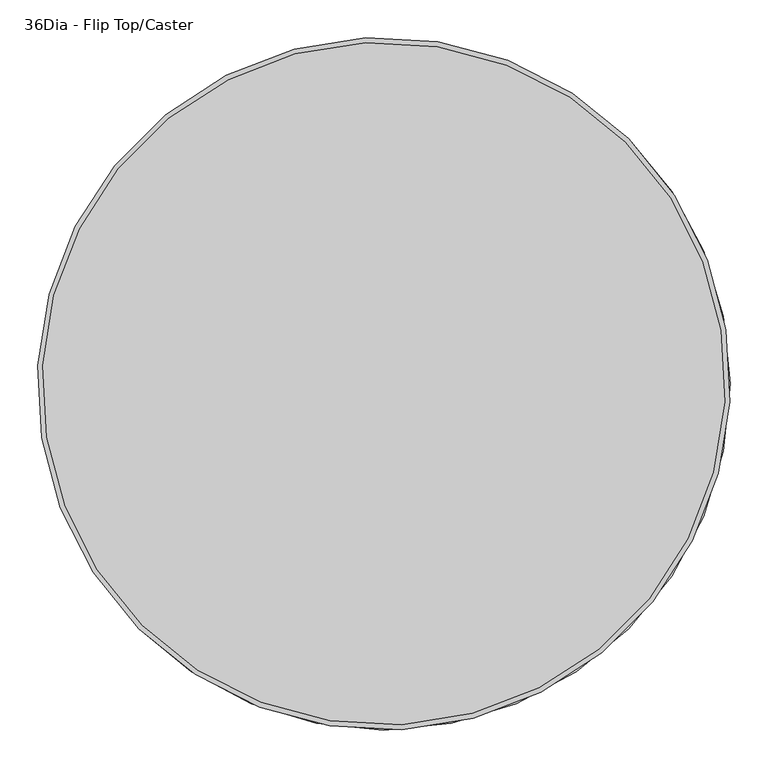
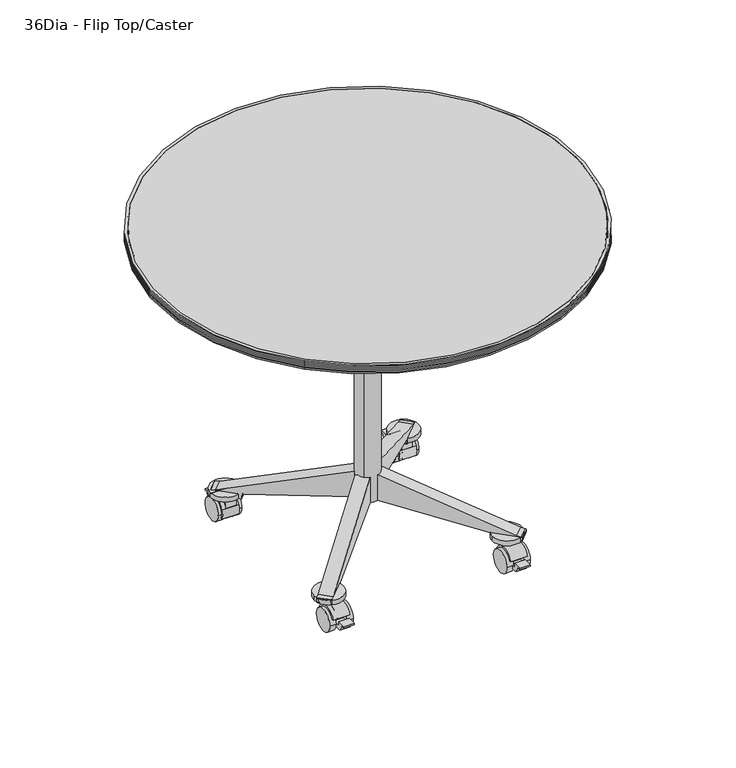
"""IFC4 building model written with IfcOpenShell, lengths in millimetres: furniture geometry, Coalesse_AM_Table_Conference_Ballet_Table_Round : 36Dia - Flip Top/Caster."""

from ifc_helpers import new_model, si_unit, point, frame, frame_2d, origin, origin_2d, place, context, project, spatial, polyline, circle_curve, trimmed, segment, composite_curve, outline, extrude, source, transform, mapped, element, save
from ifc_brep_helpers import plane_surface, cylinder_surface, revolved_surface, advanced_brep


def furniture_36dia_flip_top_caster_c69cecfe(model_context):
    return source(origin(), model_context, "Body", "SolidModel", [
        extrude(outline(composite_curve([segment(trimmed(circle_curve(frame_2d((1.04e-05, -1.04e-05)), 25.3999999), [point((-17.9605018, -17.9605225))], [point((17.9605225, 17.9605018))], False, "CARTESIAN"), True, "CONTINUOUS"), segment(trimmed(circle_curve(frame_2d((1.04e-05, -1.04e-05)), 25.3999999), [point((17.9605225, 17.9605018))], [point((-17.9605018, -17.9605225))], False, "CARTESIAN"), True, "CONTINUOUS")], self_intersect=False)), frame((0.0, 0.0, 607.6784119), z_axis=(0.0, 0.0, 1.0), x_axis=(1.0, 0.0, 0.0)), (0.0, 0.0, 1.0), 50.3081696),
        extrude(outline(composite_curve([segment(trimmed(circle_curve(frame_2d((209.2741105, 25.3444377)), 28.8343721), [point((182.4395783, 14.7931869))], [point((182.4395783, 35.8956886))], False, "CARTESIAN"), True, "CONTINUOUS"), segment(trimmed(circle_curve(frame_2d((207.8788336, 25.8930561)), 27.3351124), [point((182.4395783, 35.8956886))], [point((197.8152878, 51.3082762))], False, "CARTESIAN"), True, "CONTINUOUS"), segment(trimmed(circle_curve(frame_2d((209.4353674, 26.7032164)), 27.2109394), [point((197.8152878, 51.3082762))], [point((234.6796249, 36.8601197))], False, "CARTESIAN"), True, "CONTINUOUS"), segment(polyline([(234.6796249, 36.8601197), (231.2540436, 35.7749086)]), True, "CONTINUOUS"), segment(trimmed(circle_curve(frame_2d((208.7663144, 24.9907393)), 24.9398531), [point((231.2540436, 35.7749086))], [point((185.3508649, 16.4051117))], True, "CARTESIAN"), True, "CONTINUOUS"), segment(polyline([(185.3508649, 16.4051117), (182.4395783, 14.7931869)]), True, "CONTINUOUS")], self_intersect=False)), frame((174.0984431, 0.0, 0.0), z_axis=(1.0, 0.0, 0.0), x_axis=(0.0, 1.0, 0.0)), (0.0, 0.0, 1.0), 36.0286787),
        extrude(outline(composite_curve([segment(trimmed(circle_curve(frame_2d((208.7663144, 24.9907393)), 24.9398531), [point((233.7061675, 24.9907393))], [point((183.8264612, 24.9907393))], False, "CARTESIAN"), True, "CONTINUOUS"), segment(trimmed(circle_curve(frame_2d((208.7663144, 24.9907393)), 24.9398531), [point((183.8264612, 24.9907393))], [point((233.7061675, 24.9907393))], False, "CARTESIAN"), True, "CONTINUOUS")], self_intersect=False)), frame((166.2968952, 0.0, 0.0), z_axis=(1.0, 0.0, 0.0), x_axis=(0.0, 1.0, 0.0)), (0.0, 0.0, 1.0), 14.6120158),
        extrude(outline(composite_curve([segment(polyline([(197.8152878, 63.5225277), (197.8152878, 51.3082762)]), True, "CONTINUOUS"), segment(trimmed(circle_curve(frame_2d((209.4353674, 26.7032164)), 27.2109394), [point((197.8152878, 51.3082762))], [point((234.6796249, 36.8601197))], False, "CARTESIAN"), True, "CONTINUOUS"), segment(polyline([(234.6796249, 36.8601197), (219.8001714, 32.1463658), (222.0637731, 25.0010719), (241.3530844, 25.0010719), (241.3530844, 35.1210973), (260.4030844, 35.1210973), (260.4030844, 31.7691038), (253.6776476, 31.7691038), (244.706152, 17.4117096), (218.9375545, 17.4117096)]), True, "CONTINUOUS"), segment(trimmed(circle_curve(frame_2d((208.672695, 25.0010719)), 12.7658043), [point((218.9375545, 17.4117096))], [point((198.9802659, 16.6930892))], False, "CARTESIAN"), True, "CONTINUOUS"), segment(polyline([(198.9802659, 16.6930892), (195.904393, 22.2484025), (182.4395783, 14.7931869)]), True, "CONTINUOUS"), segment(trimmed(circle_curve(frame_2d((209.2741105, 25.3444377)), 28.8343721), [point((182.4395783, 14.7931869))], [point((182.4395783, 35.8956886))], False, "CARTESIAN"), True, "CONTINUOUS"), segment(polyline([(182.4395783, 35.8956886), (182.4395783, 63.5225277), (197.8152878, 63.5225277)]), True, "CONTINUOUS")], self_intersect=False)), frame((179.2633359, 0.0, 0.0), z_axis=(1.0, 0.0, 0.0), x_axis=(0.0, 1.0, 0.0)), (0.0, 0.0, 1.0), 22.3970625),
        extrude(outline(composite_curve([segment(trimmed(circle_curve(frame_2d((208.7663144, 24.9907393)), 24.9398531), [point((233.7061675, 24.9907393))], [point((183.8264612, 24.9907393))], False, "CARTESIAN"), True, "CONTINUOUS"), segment(trimmed(circle_curve(frame_2d((208.7663144, 24.9907393)), 24.9398531), [point((183.8264612, 24.9907393))], [point((233.7061675, 24.9907393))], False, "CARTESIAN"), True, "CONTINUOUS")], self_intersect=False)), frame((203.3322938, 0.0, 0.0), z_axis=(1.0, 0.0, 0.0), x_axis=(0.0, 1.0, 0.0)), (0.0, 0.0, 1.0), 13.7103424),
        extrude(outline(composite_curve([segment(trimmed(circle_curve(frame_2d((209.2741105, 25.3444377)), 28.8343721), [point((182.4395783, 14.7931869))], [point((182.4395783, 35.8956886))], False, "CARTESIAN"), True, "CONTINUOUS"), segment(trimmed(circle_curve(frame_2d((207.8788336, 25.8930561)), 27.3351124), [point((182.4395783, 35.8956886))], [point((197.8152878, 51.3082762))], False, "CARTESIAN"), True, "CONTINUOUS"), segment(trimmed(circle_curve(frame_2d((209.4353674, 26.7032164)), 27.2109394), [point((197.8152878, 51.3082762))], [point((234.6796249, 36.8601197))], False, "CARTESIAN"), True, "CONTINUOUS"), segment(polyline([(234.6796249, 36.8601197), (231.2540436, 35.7749086)]), True, "CONTINUOUS"), segment(trimmed(circle_curve(frame_2d((208.7663144, 24.9907393)), 24.9398531), [point((231.2540436, 35.7749086))], [point((185.3508649, 16.4051117))], True, "CARTESIAN"), True, "CONTINUOUS"), segment(polyline([(185.3508649, 16.4051117), (182.4395783, 14.7931869)]), True, "CONTINUOUS")], self_intersect=False)), frame((-210.1271218, 0.0, 0.0), z_axis=(1.0, 0.0, 0.0), x_axis=(0.0, 1.0, 0.0)), (0.0, 0.0, 1.0), 36.0286787),
        extrude(outline(composite_curve([segment(trimmed(circle_curve(frame_2d((208.7663144, 24.9907393)), 24.9398531), [point((233.7061675, 24.9907393))], [point((183.8264612, 24.9907393))], False, "CARTESIAN"), True, "CONTINUOUS"), segment(trimmed(circle_curve(frame_2d((208.7663144, 24.9907393)), 24.9398531), [point((183.8264612, 24.9907393))], [point((233.7061675, 24.9907393))], False, "CARTESIAN"), True, "CONTINUOUS")], self_intersect=False)), frame((-180.908911, 0.0, 0.0), z_axis=(1.0, 0.0, 0.0), x_axis=(0.0, 1.0, 0.0)), (0.0, 0.0, 1.0), 14.6120158),
        extrude(outline(composite_curve([segment(polyline([(197.8152878, 63.5225277), (197.8152878, 51.3082762)]), True, "CONTINUOUS"), segment(trimmed(circle_curve(frame_2d((209.4353674, 26.7032164)), 27.2109394), [point((197.8152878, 51.3082762))], [point((234.6796249, 36.8601197))], False, "CARTESIAN"), True, "CONTINUOUS"), segment(polyline([(234.6796249, 36.8601197), (219.8001714, 32.1463658), (222.0637731, 25.0010719), (241.3530844, 25.0010719), (241.3530844, 35.1210973), (260.4030844, 35.1210973), (260.4030844, 31.7691038), (253.6776476, 31.7691038), (244.706152, 17.4117096), (218.9375545, 17.4117096)]), True, "CONTINUOUS"), segment(trimmed(circle_curve(frame_2d((208.672695, 25.0010719)), 12.7658043), [point((218.9375545, 17.4117096))], [point((198.9802659, 16.6930892))], False, "CARTESIAN"), True, "CONTINUOUS"), segment(polyline([(198.9802659, 16.6930892), (195.904393, 22.2484025), (182.4395783, 14.7931869)]), True, "CONTINUOUS"), segment(trimmed(circle_curve(frame_2d((209.2741105, 25.3444377)), 28.8343721), [point((182.4395783, 14.7931869))], [point((182.4395783, 35.8956886))], False, "CARTESIAN"), True, "CONTINUOUS"), segment(polyline([(182.4395783, 35.8956886), (182.4395783, 63.5225277), (197.8152878, 63.5225277)]), True, "CONTINUOUS")], self_intersect=False)), frame((-201.6603984, 0.0, 0.0), z_axis=(1.0, 0.0, 0.0), x_axis=(0.0, 1.0, 0.0)), (0.0, 0.0, 1.0), 22.3970625),
        extrude(outline(composite_curve([segment(trimmed(circle_curve(frame_2d((208.7663144, 24.9907393)), 24.9398531), [point((233.7061675, 24.9907393))], [point((183.8264612, 24.9907393))], False, "CARTESIAN"), True, "CONTINUOUS"), segment(trimmed(circle_curve(frame_2d((208.7663144, 24.9907393)), 24.9398531), [point((183.8264612, 24.9907393))], [point((233.7061675, 24.9907393))], False, "CARTESIAN"), True, "CONTINUOUS")], self_intersect=False)), frame((-217.0426362, 0.0, 0.0), z_axis=(1.0, 0.0, 0.0), x_axis=(0.0, 1.0, 0.0)), (0.0, 0.0, 1.0), 13.7103424),
        extrude(outline(composite_curve([segment(polyline([(-182.4395783, 14.7931869), (-185.3508649, 16.4051117)]), True, "CONTINUOUS"), segment(trimmed(circle_curve(frame_2d((-208.7663144, 24.9907393)), 24.9398531), [point((-185.3508649, 16.4051117))], [point((-231.2540436, 35.7749086))], True, "CARTESIAN"), True, "CONTINUOUS"), segment(polyline([(-231.2540436, 35.7749086), (-234.6796249, 36.8601197)]), True, "CONTINUOUS"), segment(trimmed(circle_curve(frame_2d((-209.4353674, 26.7032164)), 27.2109394), [point((-234.6796249, 36.8601197))], [point((-197.8152878, 51.3082762))], False, "CARTESIAN"), True, "CONTINUOUS"), segment(trimmed(circle_curve(frame_2d((-207.8788336, 25.8930561)), 27.3351124), [point((-197.8152878, 51.3082762))], [point((-182.4395783, 35.8956886))], False, "CARTESIAN"), True, "CONTINUOUS"), segment(trimmed(circle_curve(frame_2d((-209.2741105, 25.3444377)), 28.8343721), [point((-182.4395783, 35.8956886))], [point((-182.4395783, 14.7931869))], False, "CARTESIAN"), True, "CONTINUOUS")], self_intersect=False)), frame((-210.1271218, 0.0, 0.0), z_axis=(1.0, 0.0, 0.0), x_axis=(0.0, 1.0, 0.0)), (0.0, 0.0, 1.0), 36.0286787),
        extrude(outline(composite_curve([segment(trimmed(circle_curve(frame_2d((-208.7663144, 24.9907393)), 24.9398531), [point((-233.7061675, 24.9907393))], [point((-183.8264612, 24.9907393))], False, "CARTESIAN"), True, "CONTINUOUS"), segment(trimmed(circle_curve(frame_2d((-208.7663144, 24.9907393)), 24.9398531), [point((-183.8264612, 24.9907393))], [point((-233.7061675, 24.9907393))], False, "CARTESIAN"), True, "CONTINUOUS")], self_intersect=False)), frame((-180.908911, 0.0, 0.0), z_axis=(1.0, 0.0, 0.0), x_axis=(0.0, 1.0, 0.0)), (0.0, 0.0, 1.0), 14.6120158),
        extrude(outline(composite_curve([segment(polyline([(-197.8152878, 63.5225277), (-182.4395783, 63.5225277), (-182.4395783, 35.8956886)]), True, "CONTINUOUS"), segment(trimmed(circle_curve(frame_2d((-209.2741105, 25.3444377)), 28.8343721), [point((-182.4395783, 35.8956886))], [point((-182.4395783, 14.7931869))], False, "CARTESIAN"), True, "CONTINUOUS"), segment(polyline([(-182.4395783, 14.7931869), (-195.904393, 22.2484025), (-198.9802659, 16.6930892)]), True, "CONTINUOUS"), segment(trimmed(circle_curve(frame_2d((-208.672695, 25.0010719)), 12.7658043), [point((-198.9802659, 16.6930892))], [point((-218.9375545, 17.4117096))], False, "CARTESIAN"), True, "CONTINUOUS"), segment(polyline([(-218.9375545, 17.4117096), (-244.706152, 17.4117096), (-253.6776476, 31.7691038), (-260.4030844, 31.7691038), (-260.4030844, 35.1210973), (-241.3530844, 35.1210973), (-241.3530844, 25.0010719), (-222.0637731, 25.0010719), (-219.8001714, 32.1463658), (-234.6796249, 36.8601197)]), True, "CONTINUOUS"), segment(trimmed(circle_curve(frame_2d((-209.4353674, 26.7032164)), 27.2109394), [point((-234.6796249, 36.8601197))], [point((-197.8152878, 51.3082762))], False, "CARTESIAN"), True, "CONTINUOUS"), segment(polyline([(-197.8152878, 51.3082762), (-197.8152878, 63.5225277)]), True, "CONTINUOUS")], self_intersect=False)), frame((-201.6603984, 0.0, 0.0), z_axis=(1.0, 0.0, 0.0), x_axis=(0.0, 1.0, 0.0)), (0.0, 0.0, 1.0), 22.3970625),
        extrude(outline(composite_curve([segment(trimmed(circle_curve(frame_2d((-208.7663144, 24.9907393)), 24.9398531), [point((-233.7061675, 24.9907393))], [point((-183.8264612, 24.9907393))], False, "CARTESIAN"), True, "CONTINUOUS"), segment(trimmed(circle_curve(frame_2d((-208.7663144, 24.9907393)), 24.9398531), [point((-183.8264612, 24.9907393))], [point((-233.7061675, 24.9907393))], False, "CARTESIAN"), True, "CONTINUOUS")], self_intersect=False)), frame((-217.0426362, 0.0, 0.0), z_axis=(1.0, 0.0, 0.0), x_axis=(0.0, 1.0, 0.0)), (0.0, 0.0, 1.0), 13.7103424),
        extrude(outline(polyline([(158.4621346, 17.0356733), (169.8930132, 8.1048922), (169.8930132, 0.8331186), (159.98106, -9.0788345), (38.5409959, -9.0788345), (28.462086, 1.0000754), (28.462086, 7.6856478), (37.8121114, 17.0356733), (158.4621346, 17.0356733)])), frame((0.0, 0.0, 687.2912849), z_axis=(0.0, 0.0, 1.0), x_axis=(1.0, 0.0, 0.0)), (0.0, 0.0, 1.0), 6.5168503),
        extrude(outline(composite_curve([segment(trimmed(circle_curve(frame_2d((669.1002966, -84.2761543)), 7.8975043), [point((669.1002966, -92.1736586))], [point((669.1002966, -76.3786501))], False, "CARTESIAN"), True, "CONTINUOUS"), segment(trimmed(circle_curve(frame_2d((669.1002966, -84.2761543)), 7.8975043), [point((669.1002966, -76.3786501))], [point((669.1002966, -92.1736586))], False, "CARTESIAN"), True, "CONTINUOUS")], self_intersect=False)), frame((0.0, -102.0227757, 0.0), z_axis=(0.0, 1.0, 0.0), x_axis=(0.0, 0.0, 1.0)), (0.0, 0.0, 1.0), 207.3263413),
        extrude(outline(polyline([(77.1619615, -102.0227757), (72.7168839, -102.0227757), (72.7168839, 105.3035655), (77.1619615, 105.3035655), (77.1619615, -102.0227757)])), frame((0.0, 0.0, 657.9865814), z_axis=(0.0, 0.0, 1.0), x_axis=(1.0, 0.0, 0.0)), (0.0, 0.0, 1.0), 25.6753708),
        extrude(outline(polyline([(105.3035655, 652.7037643), (101.8153095, 652.7037643), (101.8153095, 700.0114872), (-94.3997971, 700.0114872), (-94.3997971, 652.7037643), (-97.8879563, 652.7037643), (-97.8879563, 704.85), (105.3035655, 704.85), (105.3035655, 652.7037643)])), frame((-111.7977681, 0.0, 0.0), z_axis=(1.0, 0.0, 0.0), x_axis=(0.0, 1.0, 0.0)), (0.0, 0.0, 1.0), 220.3746008),
        extrude(outline(polyline([(-91.8596905, 688.7419716), (99.2752998, 688.7419716), (99.2752998, 652.7037643), (94.1954742, 652.7037643), (94.1954742, 683.6619522), (-86.7795016, 683.6619522), (-86.7795016, 652.7037643), (-91.8596905, 652.7037643), (-91.8596905, 688.7419716)])), frame((-111.7977681, 0.0, 0.0), z_axis=(1.0, 0.0, 0.0), x_axis=(0.0, 1.0, 0.0)), (0.0, 0.0, 1.0), 220.3746008),
        advanced_brep(
        [(210.1271218, -182.4395783, 14.7931869), (210.1271218, -182.4395783, 35.8956886), (210.1271218, -197.8152878, 51.3082762), (210.1271218, -234.6796249, 36.8601197), (210.1271218, -231.2540436, 35.7749086), (210.1271218, -185.3508649, 16.4051117), (174.0984431, -182.4395783, 14.7931869), (174.0984431, -185.3508649, 16.4051117), (174.0984431, -231.2540436, 35.7749086), (174.0984431, -234.6796249, 36.8601197), (174.0984431, -197.8152878, 51.3082762), (174.0984431, -182.4395783, 35.8956886), (201.6603984, -197.8152878, 51.3082762), (179.2633359, -197.8152878, 51.3082762), (179.2633359, -182.4395783, 35.8956886), (201.6603984, -182.4395783, 35.8956886), (179.2633359, -231.2540436, 35.7749086), (179.2633359, -219.8001714, 32.1463658), (201.6603984, -219.8001714, 32.1463658), (201.6603984, -231.2540436, 35.7749086), (201.6603984, -185.3508649, 16.4051117), (201.6603984, -195.904393, 22.2484025), (179.2633359, -195.904393, 22.2484025), (179.2633359, -185.3508649, 16.4051117), (201.6603984, -197.8152878, 63.5225277), (201.6603984, -182.4395783, 63.5225277), (201.6603984, -222.0637731, 25.0010719), (201.6603984, -241.3530844, 25.0010719), (201.6603984, -241.3530844, 35.1210973), (201.6603984, -260.4030844, 35.1210973), (201.6603984, -260.4030844, 31.7691038), (201.6603984, -253.6776476, 31.7691038), (201.6603984, -244.706152, 17.4117096), (201.6603984, -218.9375545, 17.4117096), (201.6603984, -198.9802659, 16.6930892), (179.2633359, -197.8152878, 63.5225277), (179.2633359, -182.4395783, 63.5225277), (179.2633359, -198.9802659, 16.6930892), (179.2633359, -218.9375545, 17.4117096), (179.2633359, -244.706152, 17.4117096), (179.2633359, -253.6776476, 31.7691038), (179.2633359, -260.4030844, 31.7691038), (179.2633359, -260.4030844, 35.1210973), (179.2633359, -241.3530844, 35.1210973), (179.2633359, -241.3530844, 25.0010719), (179.2633359, -222.0637731, 25.0010719)],
        [
            (0, 1, circle_curve(frame((210.1271218, -209.2741105, 25.3444377), z_axis=(1.0, 0.0, 0.0), x_axis=(0.0, 1.0, 0.0)), 28.8343721)),
            (1, 2, circle_curve(frame((210.1271218, -207.8788336, 25.8930561), z_axis=(1.0, 0.0, 0.0), x_axis=(0.0, 1.0, 0.0)), 27.3351124)),
            (2, 3, circle_curve(frame((210.1271218, -209.4353674, 26.7032164), z_axis=(1.0, 0.0, 0.0), x_axis=(0.0, 1.0, 0.0)), 27.2109394)),
            (3, 4),
            (4, 5, circle_curve(frame((210.1271218, -208.7663144, 24.9907393), z_axis=(-1.0, 0.0, 0.0), x_axis=(0.0, 1.0, 0.0)), 24.9398531)),
            (5, 0),
            (6, 7),
            (7, 8, circle_curve(frame((174.0984431, -208.7663144, 24.9907393), z_axis=(1.0, 0.0, 0.0), x_axis=(0.0, 1.0, 0.0)), 24.9398531)),
            (8, 9),
            (9, 10, circle_curve(frame((174.0984431, -209.4353674, 26.7032164), z_axis=(-1.0, 0.0, 0.0), x_axis=(0.0, 1.0, 0.0)), 27.2109394)),
            (10, 11, circle_curve(frame((174.0984431, -207.8788336, 25.8930561), z_axis=(-1.0, 0.0, 0.0), x_axis=(0.0, 1.0, 0.0)), 27.3351124)),
            (11, 6, circle_curve(frame((174.0984431, -209.2741105, 25.3444377), z_axis=(-1.0, 0.0, 0.0), x_axis=(0.0, 1.0, 0.0)), 28.8343721)),
            (9, 3),
            (2, 12),
            (12, 13),
            (13, 10),
            (0, 6),
            (11, 14),
            (14, 15),
            (15, 1),
            (8, 16),
            (16, 17),
            (17, 18),
            (18, 19),
            (19, 4),
            (5, 20),
            (20, 21),
            (21, 22),
            (22, 23),
            (23, 7),
            (15, 12, circle_curve(frame((201.6603984, -207.8788336, 25.8930561), z_axis=(1.0, 0.0, 0.0), x_axis=(0.0, 1.0, 0.0)), 27.3351124)),
            (13, 14, circle_curve(frame((179.2633359, -207.8788336, 25.8930561), z_axis=(-1.0, 0.0, 0.0), x_axis=(0.0, 1.0, 0.0)), 27.3351124)),
            (19, 20, circle_curve(frame((201.6603984, -208.7663144, 24.9907393), z_axis=(-1.0, 0.0, 0.0), x_axis=(0.0, 1.0, 0.0)), 24.9398531)),
            (23, 16, circle_curve(frame((179.2633359, -208.7663144, 24.9907393), z_axis=(1.0, 0.0, 0.0), x_axis=(0.0, 1.0, 0.0)), 24.9398531)),
            (24, 12),
            (15, 25),
            (25, 24),
            (18, 26),
            (26, 27),
            (27, 28),
            (28, 29),
            (29, 30),
            (30, 31),
            (31, 32),
            (32, 33),
            (33, 34, circle_curve(frame((201.6603984, -208.672695, 25.0010719), z_axis=(1.0, 0.0, 0.0), x_axis=(0.0, 1.0, 0.0)), 12.7658043)),
            (34, 21),
            (35, 36),
            (36, 14),
            (13, 35),
            (22, 37),
            (37, 38, circle_curve(frame((179.2633359, -208.672695, 25.0010719), z_axis=(-1.0, 0.0, 0.0), x_axis=(0.0, 1.0, 0.0)), 12.7658043)),
            (38, 39),
            (39, 40),
            (40, 41),
            (41, 42),
            (42, 43),
            (43, 44),
            (44, 45),
            (45, 17),
            (24, 35),
            (36, 25),
            (45, 26),
            (33, 38),
            (37, 34),
            (44, 27),
            (43, 28),
            (42, 29),
            (41, 30),
            (40, 31),
            (39, 32),
        ],
        [
            plane_surface(frame((210.1271218, -180.4397384, 25.3444377), z_axis=(1.0, 0.0, 0.0), x_axis=(0.0, 0.0, 1.0))),
            plane_surface(frame((174.0984431, -180.4397384, 25.3444377), z_axis=(-1.0, 0.0, 0.0), x_axis=(0.0, 0.0, -1.0))),
            cylinder_surface(frame((174.0984431, -209.4353674, 26.7032164), z_axis=(1.0, 0.0, 0.0), x_axis=(0.0, 1.0, 0.0)), 27.2109394),
            cylinder_surface(frame((174.0984431, -209.2741105, 25.3444377), z_axis=(1.0, 0.0, 0.0), x_axis=(0.0, 1.0, 0.0)), 28.8343721),
            plane_surface(frame((210.1271218, -234.6796249, 36.8601197), z_axis=(0.0, -0.30200390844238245, -0.9533066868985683), x_axis=(-1.0, 0.0, 0.0))),
            plane_surface(frame((210.1271218, -185.3508649, 16.4051117), z_axis=(0.0, -0.4843894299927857, -0.8748524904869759), x_axis=(-1.0, 0.0, 0.0))),
            cylinder_surface(frame((174.0984431, -207.8788336, 25.8930561), z_axis=(1.0, 0.0, 0.0), x_axis=(0.0, 1.0, 0.0)), 27.3351124),
            revolved_surface(polyline([(201.6603984, -183.8264613, 24.9907393), (210.1271218, -183.8264613, 24.9907393)]), (174.0984431, -208.7663144, 24.9907393), (-1.0, 0.0, 0.0)),
            revolved_surface(polyline([(174.0984431, -183.8264613, 24.9907393), (179.2633359, -183.8264613, 24.9907393)]), (174.0984431, -208.7663144, 24.9907393), (-1.0, 0.0, 0.0)),
            plane_surface(frame((201.6603984, -197.8152878, 63.5225277), z_axis=(1.0, 0.0, 0.0), x_axis=(0.0, 0.0, -1.0))),
            plane_surface(frame((179.2633359, -197.8152878, 63.5225277), z_axis=(-1.0, 0.0, 0.0), x_axis=(0.0, 0.0, 1.0))),
            plane_surface(frame((201.6603984, -197.8152878, 63.5225277), z_axis=(0.0, -1.0, 0.0), x_axis=(-1.0, 0.0, 0.0))),
            plane_surface(frame((201.6603984, -182.4395783, 35.8956886), z_axis=(0.0, 1.0, 0.0), x_axis=(-1.0, 0.0, 0.0))),
            plane_surface(frame((201.6603984, -182.4395783, 63.5225277), z_axis=(0.0, 0.0, 1.0), x_axis=(-1.0, 0.0, 0.0))),
            plane_surface(frame((201.6603984, -219.8001714, 32.1463658), z_axis=(0.0, -0.9533066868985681, 0.3020039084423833), x_axis=(-1.0, 0.0, 0.0))),
            cylinder_surface(frame((179.2633359, -208.672695, 25.0010719), z_axis=(1.0, 0.0, 0.0), x_axis=(0.0, 1.0, 0.0)), 12.7658043),
            plane_surface(frame((201.6603984, -198.9802659, 16.6930892), z_axis=(0.0, 0.8748524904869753, -0.48438942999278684), x_axis=(-1.0, 0.0, 0.0))),
            plane_surface(frame((201.6603984, -222.0637731, 25.0010719), z_axis=(0.0, 0.0, 1.0), x_axis=(-1.0, 0.0, 0.0))),
            plane_surface(frame((201.6603984, -241.3530844, 25.0010719), z_axis=(0.0, 1.0, 0.0), x_axis=(-1.0, 0.0, 0.0))),
            plane_surface(frame((201.6603984, -241.3530844, 35.1210973), z_axis=(0.0, 0.0, 1.0), x_axis=(-1.0, 0.0, 0.0))),
            plane_surface(frame((201.6603984, -260.4030844, 35.1210973), z_axis=(0.0, -1.0, 0.0), x_axis=(-1.0, 0.0, 0.0))),
            plane_surface(frame((201.6603984, -260.4030844, 31.7691038), z_axis=(0.0, 0.0, -1.0), x_axis=(-1.0, 0.0, 0.0))),
            plane_surface(frame((201.6603984, -253.6776476, 31.7691038), z_axis=(0.0, -0.8480480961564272, -0.529919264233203), x_axis=(-1.0, 0.0, 0.0))),
            plane_surface(frame((201.6603984, -244.706152, 17.4117096), z_axis=(0.0, 0.0, -1.0), x_axis=(-1.0, 0.0, 0.0))),
        ],
        [
            (0, [[1, 2, 3, 4, 5, 6]]),
            (1, [[7, 8, 9, 10, 11, 12]]),
            (2, [[13, -3, 14, 15, 16, -10]]),
            (3, [[-1, 17, -12, 18, 19, 20]]),
            (4, [[-4, -13, -9, 21, 22, 23, 24, 25]]),
            (5, [[-6, 26, 27, 28, 29, 30, -7, -17]]),
            (6, [[-2, -20, 31, -14]]),
            (6, [[-11, -16, 32, -18]]),
            (7, [[-5, -25, 33, -26]]),
            (8, [[-8, -30, 34, -21]]),
            (9, [[35, -31, 36, 37]]),
            (9, [[38, 39, 40, 41, 42, 43, 44, 45, 46, 47, -27, -33, -24]]),
            (10, [[48, 49, -32, 50]]),
            (10, [[51, 52, 53, 54, 55, 56, 57, 58, 59, 60, -22, -34, -29]]),
            (11, [[-35, 61, -50, -15]]),
            (12, [[-36, -19, -49, 62]]),
            (13, [[-37, -62, -48, -61]]),
            (14, [[-38, -23, -60, 63]]),
            (15, [[-46, 64, -52, 65]]),
            (16, [[-47, -65, -51, -28]]),
            (17, [[-39, -63, -59, 66]]),
            (18, [[-40, -66, -58, 67]]),
            (19, [[-41, -67, -57, 68]]),
            (20, [[-42, -68, -56, 69]]),
            (21, [[-43, -69, -55, 70]]),
            (22, [[-44, -70, -54, 71]]),
            (23, [[-45, -71, -53, -64]]),
        ],
    ),
        extrude(outline(composite_curve([segment(trimmed(circle_curve(frame_2d((-208.7663144, 24.9907393)), 24.9398531), [point((-233.7061675, 24.9907393))], [point((-183.8264612, 24.9907393))], False, "CARTESIAN"), True, "CONTINUOUS"), segment(trimmed(circle_curve(frame_2d((-208.7663144, 24.9907393)), 24.9398531), [point((-183.8264612, 24.9907393))], [point((-233.7061675, 24.9907393))], False, "CARTESIAN"), True, "CONTINUOUS")], self_intersect=False)), frame((166.2968952, 0.0, 0.0), z_axis=(1.0, 0.0, 0.0), x_axis=(0.0, 1.0, 0.0)), (0.0, 0.0, 1.0), 14.6120158),
        extrude(outline(composite_curve([segment(trimmed(circle_curve(frame_2d((-208.7663144, 24.9907393)), 24.9398531), [point((-233.7061675, 24.9907393))], [point((-183.8264612, 24.9907393))], False, "CARTESIAN"), True, "CONTINUOUS"), segment(trimmed(circle_curve(frame_2d((-208.7663144, 24.9907393)), 24.9398531), [point((-183.8264612, 24.9907393))], [point((-233.7061675, 24.9907393))], False, "CARTESIAN"), True, "CONTINUOUS")], self_intersect=False)), frame((203.3322938, 0.0, 0.0), z_axis=(1.0, 0.0, 0.0), x_axis=(0.0, 1.0, 0.0)), (0.0, 0.0, 1.0), 13.7103424),
        extrude(outline(composite_curve([segment(trimmed(circle_curve(frame_2d((-194.715793, 197.3207687)), 31.75), [point((-226.465793, 197.3207687))], [point((-162.965793, 197.3207687))], False, "CARTESIAN"), True, "CONTINUOUS"), segment(trimmed(circle_curve(frame_2d((-194.715793, 197.3207687)), 31.75), [point((-162.965793, 197.3207687))], [point((-226.465793, 197.3207687))], False, "CARTESIAN"), True, "CONTINUOUS")], self_intersect=False)), frame((0.0, 0.0, 62.0397209), z_axis=(0.0, 0.0, 1.0), x_axis=(1.0, 0.0, 0.0)), (0.0, 0.0, 1.0), 10.7840801),
        extrude(outline(composite_curve([segment(trimmed(circle_curve(frame_2d((191.7194605, 196.5270187)), 31.75), [point((159.9694605, 196.5270187))], [point((223.4694605, 196.5270187))], False, "CARTESIAN"), True, "CONTINUOUS"), segment(trimmed(circle_curve(frame_2d((191.7194605, 196.5270187)), 31.75), [point((223.4694605, 196.5270187))], [point((159.9694605, 196.5270187))], False, "CARTESIAN"), True, "CONTINUOUS")], self_intersect=False)), frame((0.0, 0.0, 62.0397209), z_axis=(0.0, 0.0, 1.0), x_axis=(1.0, 0.0, 0.0)), (0.0, 0.0, 1.0), 10.7840801),
        extrude(outline(composite_curve([segment(trimmed(circle_curve(frame_2d((-194.715793, -191.2787692)), 31.75), [point((-226.465793, -191.2787692))], [point((-162.965793, -191.2787692))], False, "CARTESIAN"), True, "CONTINUOUS"), segment(trimmed(circle_curve(frame_2d((-194.715793, -191.2787692)), 31.75), [point((-162.965793, -191.2787692))], [point((-226.465793, -191.2787692))], False, "CARTESIAN"), True, "CONTINUOUS")], self_intersect=False)), frame((0.0, 0.0, 62.0397209), z_axis=(0.0, 0.0, 1.0), x_axis=(1.0, 0.0, 0.0)), (0.0, 0.0, 1.0), 10.7840801),
        extrude(outline(composite_curve([segment(trimmed(circle_curve(frame_2d((191.7194605, -190.4850192)), 31.75), [point((159.9694605, -190.4850192))], [point((223.4694605, -190.4850192))], False, "CARTESIAN"), True, "CONTINUOUS"), segment(trimmed(circle_curve(frame_2d((191.7194605, -190.4850192)), 31.75), [point((223.4694605, -190.4850192))], [point((159.9694605, -190.4850192))], False, "CARTESIAN"), True, "CONTINUOUS")], self_intersect=False)), frame((0.0, 0.0, 62.0397209), z_axis=(0.0, 0.0, 1.0), x_axis=(1.0, 0.0, 0.0)), (0.0, 0.0, 1.0), 10.7840801),
        extrude(outline(composite_curve([segment(polyline([(-57.749273, 0.0), (0.0, 0.0), (-90.9931074, -269.8641919), (-92.3030079, -279.1846177)]), True, "CONTINUOUS"), segment(trimmed(circle_curve(frame_2d((-93.9206951, -278.9572666)), 1.6335852), [point((-92.3030079, -279.1846177))], [point((-93.8206014, -280.5877823))], False, "CARTESIAN"), True, "CONTINUOUS"), segment(trimmed(circle_curve(frame_2d((-95.8523928, -247.4901147)), 33.1599725), [point((-93.8206014, -280.5877823))], [point((-101.682402, -280.1335639))], False, "CARTESIAN"), True, "CONTINUOUS"), segment(trimmed(circle_curve(frame_2d((-101.2796868, -277.8786768)), 2.2905666), [point((-101.682402, -280.1335639))], [point((-103.5674671, -277.7657306))], False, "CARTESIAN"), True, "CONTINUOUS"), segment(polyline([(-103.5674671, -277.7657306), (-103.5674671, -222.4322812)]), True, "CONTINUOUS"), segment(trimmed(circle_curve(frame_2d((-100.6154331, -221.9840334)), 2.9858719), [point((-103.5674671, -222.4322812))], [point((-100.2998684, -219.0148838))], False, "CARTESIAN"), True, "CONTINUOUS"), segment(trimmed(circle_curve(frame_2d((-98.3053249, -200.2482144)), 18.872363), [point((-100.2998684, -219.0148838))], [point((-94.5016021, -218.7332835))], True, "CARTESIAN"), True, "CONTINUOUS"), segment(trimmed(circle_curve(frame_2d((-95.1495986, -215.5841949)), 3.2150673), [point((-94.5016021, -218.7332835))], [point((-91.9741141, -216.0871422))], True, "CARTESIAN"), True, "CONTINUOUS"), segment(polyline([(-91.9741141, -216.0871422), (-57.749273, 0.0)]), True, "CONTINUOUS")], self_intersect=False)), frame((-23.5273141, 7.7834997, 165.607188), z_axis=(0.7071067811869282, 0.707106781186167, 0.0), x_axis=(0.0, 0.0, 1.0)), (0.0, 0.0, 1.0), 29.2174476),
        extrude(outline(composite_curve([segment(polyline([(-57.749273, 44.2801775), (-91.9741141, 260.3673198)]), True, "CONTINUOUS"), segment(trimmed(circle_curve(frame_2d((-95.1495986, 259.8643724)), 3.2150673), [point((-91.9741141, 260.3673198))], [point((-94.5016021, 263.013461))], True, "CARTESIAN"), True, "CONTINUOUS"), segment(trimmed(circle_curve(frame_2d((-98.3053249, 244.5283919)), 18.872363), [point((-94.5016021, 263.013461))], [point((-100.2998684, 263.2950613))], True, "CARTESIAN"), True, "CONTINUOUS"), segment(trimmed(circle_curve(frame_2d((-100.6154331, 266.2642109)), 2.9858719), [point((-100.2998684, 263.2950613))], [point((-103.5674671, 266.7124587))], False, "CARTESIAN"), True, "CONTINUOUS"), segment(polyline([(-103.5674671, 266.7124587), (-103.5674671, 322.0459081)]), True, "CONTINUOUS"), segment(trimmed(circle_curve(frame_2d((-101.2796868, 322.1588543)), 2.2905666), [point((-103.5674671, 322.0459081))], [point((-101.682402, 324.4137415))], False, "CARTESIAN"), True, "CONTINUOUS"), segment(trimmed(circle_curve(frame_2d((-95.8523928, 291.7702923)), 33.1599725), [point((-101.682402, 324.4137415))], [point((-93.8206014, 324.8679598))], False, "CARTESIAN"), True, "CONTINUOUS"), segment(trimmed(circle_curve(frame_2d((-93.9206951, 323.2374442)), 1.6335852), [point((-93.8206014, 324.8679598))], [point((-92.3030079, 323.4647953))], False, "CARTESIAN"), True, "CONTINUOUS"), segment(polyline([(-92.3030079, 323.4647953), (-90.9931074, 314.1443694), (0.0, 44.2801775), (-57.749273, 44.2801775)]), True, "CONTINUOUS")], self_intersect=False)), frame((-23.5273141, 7.7834997, 165.607188), z_axis=(0.7071067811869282, 0.707106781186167, 0.0), x_axis=(0.0, 0.0, 1.0)), (0.0, 0.0, 1.0), 29.2174476),
        extrude(outline(composite_curve([segment(polyline([(-57.749273, 0.0), (0.0, 0.0), (-90.9931074, -269.8641919), (-92.3030079, -279.1846177)]), True, "CONTINUOUS"), segment(trimmed(circle_curve(frame_2d((-93.9206951, -278.9572666)), 1.6335852), [point((-92.3030079, -279.1846177))], [point((-93.8206014, -280.5877823))], False, "CARTESIAN"), True, "CONTINUOUS"), segment(trimmed(circle_curve(frame_2d((-95.8523928, -247.4901147)), 33.1599725), [point((-93.8206014, -280.5877823))], [point((-101.682402, -280.1335639))], False, "CARTESIAN"), True, "CONTINUOUS"), segment(trimmed(circle_curve(frame_2d((-101.2796868, -277.8786768)), 2.2905666), [point((-101.682402, -280.1335639))], [point((-103.5674671, -277.7657306))], False, "CARTESIAN"), True, "CONTINUOUS"), segment(polyline([(-103.5674671, -277.7657306), (-103.5674671, -222.4322812)]), True, "CONTINUOUS"), segment(trimmed(circle_curve(frame_2d((-100.6154331, -221.9840334)), 2.9858719), [point((-103.5674671, -222.4322812))], [point((-100.2998684, -219.0148838))], False, "CARTESIAN"), True, "CONTINUOUS"), segment(trimmed(circle_curve(frame_2d((-98.3053249, -200.2482144)), 18.872363), [point((-100.2998684, -219.0148838))], [point((-94.5016021, -218.7332835))], True, "CARTESIAN"), True, "CONTINUOUS"), segment(trimmed(circle_curve(frame_2d((-95.1495986, -215.5841949)), 3.2150673), [point((-94.5016021, -218.7332835))], [point((-91.9741141, -216.0871422))], True, "CARTESIAN"), True, "CONTINUOUS"), segment(polyline([(-91.9741141, -216.0871422), (-57.749273, 0.0)]), True, "CONTINUOUS")], self_intersect=False)), frame((-7.7834997, -23.5273141, 165.607188), z_axis=(-0.7071067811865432, 0.7071067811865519, 0.0), x_axis=(0.0, 0.0, 1.0)), (0.0, 0.0, 1.0), 29.2174476),
        extrude(outline(composite_curve([segment(polyline([(-57.749273, 44.2801775), (-91.9741141, 260.3673198)]), True, "CONTINUOUS"), segment(trimmed(circle_curve(frame_2d((-95.1495986, 259.8643724)), 3.2150673), [point((-91.9741141, 260.3673198))], [point((-94.5016021, 263.013461))], True, "CARTESIAN"), True, "CONTINUOUS"), segment(trimmed(circle_curve(frame_2d((-98.3053249, 244.5283919)), 18.872363), [point((-94.5016021, 263.013461))], [point((-100.2998684, 263.2950613))], True, "CARTESIAN"), True, "CONTINUOUS"), segment(trimmed(circle_curve(frame_2d((-100.6154331, 266.2642109)), 2.9858719), [point((-100.2998684, 263.2950613))], [point((-103.5674671, 266.7124587))], False, "CARTESIAN"), True, "CONTINUOUS"), segment(polyline([(-103.5674671, 266.7124587), (-103.5674671, 322.0459081)]), True, "CONTINUOUS"), segment(trimmed(circle_curve(frame_2d((-101.2796868, 322.1588543)), 2.2905666), [point((-103.5674671, 322.0459081))], [point((-101.682402, 324.4137415))], False, "CARTESIAN"), True, "CONTINUOUS"), segment(trimmed(circle_curve(frame_2d((-95.8523928, 291.7702923)), 33.1599725), [point((-101.682402, 324.4137415))], [point((-93.8206014, 324.8679598))], False, "CARTESIAN"), True, "CONTINUOUS"), segment(trimmed(circle_curve(frame_2d((-93.9206951, 323.2374442)), 1.6335852), [point((-93.8206014, 324.8679598))], [point((-92.3030079, 323.4647953))], False, "CARTESIAN"), True, "CONTINUOUS"), segment(polyline([(-92.3030079, 323.4647953), (-90.9931074, 314.1443694), (0.0, 44.2801775), (-57.749273, 44.2801775)]), True, "CONTINUOUS")], self_intersect=False)), frame((-7.7834997, -23.5273141, 165.607188), z_axis=(-0.7071067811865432, 0.7071067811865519, 0.0), x_axis=(0.0, 0.0, 1.0)), (0.0, 0.0, 1.0), 29.2174476),
        extrude(outline(composite_curve([segment(trimmed(circle_curve(frame_2d((1.04e-05, -1.04e-05)), 25.3999999), [point((-17.9605018, -17.9605225))], [point((17.9605225, 17.9605018))], False, "CARTESIAN"), True, "CONTINUOUS"), segment(trimmed(circle_curve(frame_2d((1.04e-05, -1.04e-05)), 25.3999999), [point((17.9605225, 17.9605018))], [point((-17.9605018, -17.9605225))], False, "CARTESIAN"), True, "CONTINUOUS")], self_intersect=False)), frame((0.0, 0.0, 107.857915), z_axis=(0.0, 0.0, 1.0), x_axis=(1.0, 0.0, 0.0)), (0.0, 0.0, 1.0), 499.8204968),
        advanced_brep(
        [(-318.7990923, -318.7990923, 723.9), (318.7990923, 318.7990923, 723.9), (318.7990923, 318.7990923, 704.85), (-318.7990923, -318.7990923, 704.85), (-323.4194013, -323.4194013, 720.7467693), (323.4194013, 323.4194013, 720.7467693), (323.4194013, 323.4194013, 723.9), (-323.4194013, -323.4194013, 723.9), (-321.1902454, -321.1902454, 719.140489), (321.1902454, 321.1902454, 719.140489), (-323.3975457, -323.3975457, 717.5499574), (323.3975457, 323.3975457, 717.5499574), (-321.1872768, -321.1872768, 715.9572867), (321.1872768, 321.1872768, 715.9572867), (-323.4153307, -323.4153307, 714.3518005), (323.4153307, 323.4153307, 714.3518005), (-321.1853731, -321.1853731, 712.8136693), (321.1853731, 321.1853731, 712.8136693), (-323.4314025, -323.4314025, 711.2246637), (323.4314025, 323.4314025, 711.2246637), (-321.1899902, -321.1899902, 709.6095518), (321.1899902, 321.1899902, 709.6095518), (-323.4314025, -323.4314025, 708.0238127), (323.4314025, 323.4314025, 708.0238127), (-323.4314025, -323.4314025, 704.85), (323.4314025, 323.4314025, 704.85)],
        [
            (0, 1, circle_curve(frame((0.0, 0.0, 723.9), z_axis=(0.0, 0.0, 1.0), x_axis=(0.707106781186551, 0.707106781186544, 0.0)), 450.85)),
            (1, 2),
            (2, 3, circle_curve(frame((0.0, 0.0, 704.85), z_axis=(0.0, 0.0, -1.0), x_axis=(0.707106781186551, 0.707106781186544, 0.0)), 450.85)),
            (3, 0),
            (4, 5, circle_curve(frame((0.0, 0.0, 720.7467693), z_axis=(0.0, 0.0, 1.0), x_axis=(0.707106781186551, 0.707106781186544, 0.0)), 457.3841036)),
            (5, 6),
            (6, 7, circle_curve(frame((0.0, 0.0, 723.9), z_axis=(0.0, 0.0, -1.0), x_axis=(0.707106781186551, 0.707106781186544, 0.0)), 457.3841036)),
            (7, 4),
            (8, 9, circle_curve(frame((0.0, 0.0, 719.140489), z_axis=(0.0, 0.0, 1.0), x_axis=(0.707106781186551, 0.707106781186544, 0.0)), 454.2316012)),
            (9, 5),
            (4, 8),
            (10, 11, circle_curve(frame((0.0, 0.0, 717.5499574), z_axis=(0.0, 0.0, 1.0), x_axis=(0.707106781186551, 0.707106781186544, 0.0)), 457.3531952)),
            (11, 9),
            (8, 10),
            (12, 13, circle_curve(frame((0.0, 0.0, 715.9572867), z_axis=(0.0, 0.0, 1.0), x_axis=(0.707106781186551, 0.707106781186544, 0.0)), 454.2274029)),
            (13, 11),
            (10, 12),
            (14, 15, circle_curve(frame((0.0, 0.0, 714.3518005), z_axis=(0.0, 0.0, 1.0), x_axis=(0.707106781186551, 0.707106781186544, 0.0)), 457.378347)),
            (15, 13),
            (12, 14),
            (16, 17, circle_curve(frame((0.0, 0.0, 712.8136693), z_axis=(0.0, 0.0, 1.0), x_axis=(0.707106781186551, 0.707106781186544, 0.0)), 454.2247106)),
            (17, 15),
            (14, 16),
            (18, 19, circle_curve(frame((0.0, 0.0, 711.2246637), z_axis=(0.0, 0.0, 1.0), x_axis=(0.707106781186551, 0.707106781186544, 0.0)), 457.4010759)),
            (19, 17),
            (16, 18),
            (20, 21, circle_curve(frame((0.0, 0.0, 709.6095518), z_axis=(0.0, 0.0, 1.0), x_axis=(0.707106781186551, 0.707106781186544, 0.0)), 454.2312403)),
            (21, 19),
            (18, 20),
            (22, 23, circle_curve(frame((0.0, 0.0, 708.0238127), z_axis=(0.0, 0.0, 1.0), x_axis=(0.707106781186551, 0.707106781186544, 0.0)), 457.4010759)),
            (23, 21),
            (20, 22),
            (24, 25, circle_curve(frame((0.0, 0.0, 704.85), z_axis=(0.0, 0.0, 1.0), x_axis=(0.707106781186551, 0.707106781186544, 0.0)), 457.4010759)),
            (25, 23),
            (22, 24),
            (1, 0, circle_curve(frame((0.0, 0.0, 723.9), z_axis=(0.0, 0.0, 1.0), x_axis=(-0.7071067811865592, -0.7071067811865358, 0.0)), 450.85)),
            (3, 2, circle_curve(frame((0.0, 0.0, 704.85), z_axis=(0.0, 0.0, -1.0), x_axis=(-0.7071067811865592, -0.7071067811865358, 0.0)), 450.85)),
            (6, 7, circle_curve(frame((0.0, 0.0, 723.9), z_axis=(0.0, 0.0, 1.0), x_axis=(-0.7071067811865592, -0.7071067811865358, 0.0)), 457.3841036)),
            (5, 4, circle_curve(frame((0.0, 0.0, 720.7467693), z_axis=(0.0, 0.0, 1.0), x_axis=(-0.7071067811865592, -0.7071067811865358, 0.0)), 457.3841036)),
            (9, 8, circle_curve(frame((0.0, 0.0, 719.140489), z_axis=(0.0, 0.0, 1.0), x_axis=(-0.7071067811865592, -0.7071067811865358, 0.0)), 454.2316012)),
            (11, 10, circle_curve(frame((0.0, 0.0, 717.5499574), z_axis=(0.0, 0.0, 1.0), x_axis=(-0.7071067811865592, -0.7071067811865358, 0.0)), 457.3531952)),
            (13, 12, circle_curve(frame((0.0, 0.0, 715.9572867), z_axis=(0.0, 0.0, 1.0), x_axis=(-0.7071067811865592, -0.7071067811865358, 0.0)), 454.2274029)),
            (15, 14, circle_curve(frame((0.0, 0.0, 714.3518005), z_axis=(0.0, 0.0, 1.0), x_axis=(-0.7071067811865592, -0.7071067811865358, 0.0)), 457.378347)),
            (17, 16, circle_curve(frame((0.0, 0.0, 712.8136693), z_axis=(0.0, 0.0, 1.0), x_axis=(-0.7071067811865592, -0.7071067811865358, 0.0)), 454.2247106)),
            (19, 18, circle_curve(frame((0.0, 0.0, 711.2246637), z_axis=(0.0, 0.0, 1.0), x_axis=(-0.7071067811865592, -0.7071067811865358, 0.0)), 457.4010759)),
            (21, 20, circle_curve(frame((0.0, 0.0, 709.6095518), z_axis=(0.0, 0.0, 1.0), x_axis=(-0.7071067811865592, -0.7071067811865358, 0.0)), 454.2312403)),
            (23, 22, circle_curve(frame((0.0, 0.0, 708.0238127), z_axis=(0.0, 0.0, 1.0), x_axis=(-0.7071067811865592, -0.7071067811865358, 0.0)), 457.4010759)),
            (25, 24, circle_curve(frame((0.0, 0.0, 704.85), z_axis=(0.0, 0.0, 1.0), x_axis=(-0.7071067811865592, -0.7071067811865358, 0.0)), 457.4010759)),
        ],
        [
            revolved_surface(polyline([(318.7990922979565, 318.7990922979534, 704.85), (318.7990922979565, 318.7990922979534, 723.9)]), (0.0, 0.0, 723.9), (0.0, 0.0, -1.0)),
            cylinder_surface(frame((0.0, 0.0, 723.9), z_axis=(0.0, 0.0, -1.0), x_axis=(0.707106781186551, 0.707106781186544, 0.0)), 457.3841036),
            revolved_surface(polyline([(323.4194013, 323.4194013, 720.7467693), (321.1902454, 321.1902454, 719.140489)]), (0.0, 0.0, 723.9), (0.0, 0.0, -1.0)),
            revolved_surface(polyline([(321.1902454, 321.1902454, 719.140489), (323.3975457, 323.3975457, 717.5499574)]), (0.0, 0.0, 723.9), (0.0, 0.0, -1.0)),
            revolved_surface(polyline([(323.3975457, 323.3975457, 717.5499574), (321.1872768, 321.1872768, 715.9572867)]), (0.0, 0.0, 723.9), (0.0, 0.0, -1.0)),
            revolved_surface(polyline([(321.1872768, 321.1872768, 715.9572867), (323.4153307, 323.4153307, 714.3518005)]), (0.0, 0.0, 723.9), (0.0, 0.0, -1.0)),
            revolved_surface(polyline([(323.4153307, 323.4153307, 714.3518005), (321.1853731, 321.1853731, 712.8136693)]), (0.0, 0.0, 723.9), (0.0, 0.0, -1.0)),
            revolved_surface(polyline([(321.1853731, 321.1853731, 712.8136693), (323.4314025, 323.4314025, 711.2246637)]), (0.0, 0.0, 723.9), (0.0, 0.0, -1.0)),
            revolved_surface(polyline([(323.4314025, 323.4314025, 711.2246637), (321.1899902, 321.1899902, 709.6095518)]), (0.0, 0.0, 723.9), (0.0, 0.0, -1.0)),
            revolved_surface(polyline([(321.1899902, 321.1899902, 709.6095518), (323.4314025, 323.4314025, 708.0238127)]), (0.0, 0.0, 723.9), (0.0, 0.0, -1.0)),
            cylinder_surface(frame((0.0, 0.0, 723.9), z_axis=(0.0, 0.0, -1.0), x_axis=(0.707106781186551, 0.707106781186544, 0.0)), 457.4010759),
            revolved_surface(polyline([(-318.79909229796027, -318.7990922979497, 704.85), (-318.79909229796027, -318.7990922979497, 723.9)]), (0.0, 0.0, 723.9), (0.0, 0.0, -1.0)),
            plane_surface(frame((0.0, 0.0, 723.9), z_axis=(0.0, 0.0, 1.0), x_axis=(-0.7071067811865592, -0.7071067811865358, 0.0))),
            cylinder_surface(frame((0.0, 0.0, 723.9), z_axis=(0.0, 0.0, -1.0), x_axis=(-0.7071067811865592, -0.7071067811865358, 0.0)), 457.3841036),
            revolved_surface(polyline([(-323.4194013, -323.4194013, 720.7467693), (-321.1902454, -321.1902454, 719.140489)]), (0.0, 0.0, 723.9), (0.0, 0.0, -1.0)),
            revolved_surface(polyline([(-321.1902454, -321.1902454, 719.140489), (-323.3975457, -323.3975457, 717.5499574)]), (0.0, 0.0, 723.9), (0.0, 0.0, -1.0)),
            revolved_surface(polyline([(-323.3975457, -323.3975457, 717.5499574), (-321.1872768, -321.1872768, 715.9572867)]), (0.0, 0.0, 723.9), (0.0, 0.0, -1.0)),
            revolved_surface(polyline([(-321.1872768, -321.1872768, 715.9572867), (-323.4153307, -323.4153307, 714.3518005)]), (0.0, 0.0, 723.9), (0.0, 0.0, -1.0)),
            revolved_surface(polyline([(-323.4153307, -323.4153307, 714.3518005), (-321.1853731, -321.1853731, 712.8136693)]), (0.0, 0.0, 723.9), (0.0, 0.0, -1.0)),
            revolved_surface(polyline([(-321.1853731, -321.1853731, 712.8136693), (-323.4314025, -323.4314025, 711.2246637)]), (0.0, 0.0, 723.9), (0.0, 0.0, -1.0)),
            revolved_surface(polyline([(-323.4314025, -323.4314025, 711.2246637), (-321.1899902, -321.1899902, 709.6095518)]), (0.0, 0.0, 723.9), (0.0, 0.0, -1.0)),
            revolved_surface(polyline([(-321.1899902, -321.1899902, 709.6095518), (-323.4314025, -323.4314025, 708.0238127)]), (0.0, 0.0, 723.9), (0.0, 0.0, -1.0)),
            cylinder_surface(frame((0.0, 0.0, 723.9), z_axis=(0.0, 0.0, -1.0), x_axis=(-0.7071067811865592, -0.7071067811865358, 0.0)), 457.4010759),
            plane_surface(frame((0.0, 0.0, 704.85), z_axis=(0.0, 0.0, -1.0), x_axis=(-0.7071067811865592, -0.7071067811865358, 0.0))),
        ],
        [
            (0, [[1, 2, 3, 4]]),
            (1, [[5, 6, 7, 8]]),
            (2, [[9, 10, -5, 11]]),
            (3, [[12, 13, -9, 14]]),
            (4, [[15, 16, -12, 17]]),
            (5, [[18, 19, -15, 20]]),
            (6, [[21, 22, -18, 23]]),
            (7, [[24, 25, -21, 26]]),
            (8, [[27, 28, -24, 29]]),
            (9, [[30, 31, -27, 32]]),
            (10, [[33, 34, -30, 35]]),
            (11, [[36, -4, 37, -2]]),
            (12, [[38, -7], [-36, -1]]),
            (13, [[39, -8, -38, -6]]),
            (14, [[40, -11, -39, -10]]),
            (15, [[41, -14, -40, -13]]),
            (16, [[42, -17, -41, -16]]),
            (17, [[43, -20, -42, -19]]),
            (18, [[44, -23, -43, -22]]),
            (19, [[45, -26, -44, -25]]),
            (20, [[46, -29, -45, -28]]),
            (21, [[47, -32, -46, -31]]),
            (22, [[48, -35, -47, -34]]),
            (23, [[-48, -33], [-37, -3]]),
        ],
    ),
        extrude(outline(composite_curve([segment(trimmed(circle_curve(origin_2d(), 450.85), [point((-318.7990923, -318.7990923))], [point((318.7990923, 318.7990923))], False, "CARTESIAN"), True, "CONTINUOUS"), segment(trimmed(circle_curve(origin_2d(), 450.85), [point((318.7990923, 318.7990923))], [point((-318.7990923, -318.7990923))], False, "CARTESIAN"), True, "CONTINUOUS")], self_intersect=False)), frame((0.0, 0.0, 704.85), z_axis=(0.0, 0.0, 1.0), x_axis=(1.0, 0.0, 0.0)), (0.0, 0.0, 1.0), 19.05),
    ])


if __name__ == "__main__":
    model = new_model("IFC4")
    model_context = context("Model", 3, world=origin())
    ifc_project = project(units=[si_unit("LENGTHUNIT", "METRE", prefix="MILLI")], contexts=[model_context])
    site = spatial("IfcSite", under=ifc_project)
    building = spatial("IfcBuilding", under=site)
    placement = place(None, origin())
    furniture_36dia_flip_top_caster_shape = furniture_36dia_flip_top_caster_c69cecfe(model_context)
    element("IfcFurniture", 1, ObjectType="Coalesse_AM_Table_Conference_Ballet_Table_Round : 36Dia - Flip Top/Caster", at=placement, inside=building, context=model_context, shape_type="MappedRepresentation", body=[
        mapped(furniture_36dia_flip_top_caster_shape, transform((0.0, 0.0, 0.0), x_axis=(1.0, 0.0, 0.0), y_axis=(0.0, 1.0, 0.0), z_axis=(0.0, 0.0, 1.0))),
    ])
    save(model, "model.ifc")
